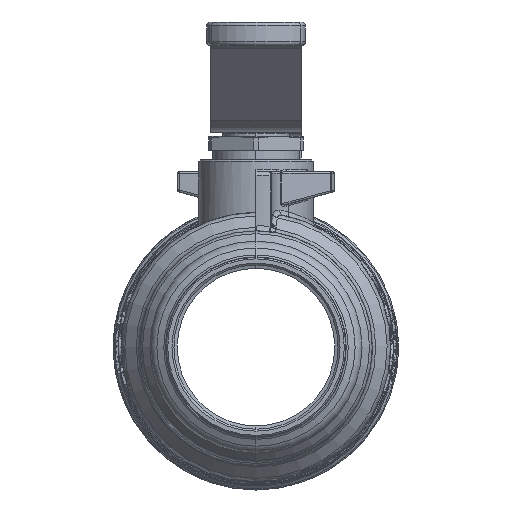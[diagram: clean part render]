
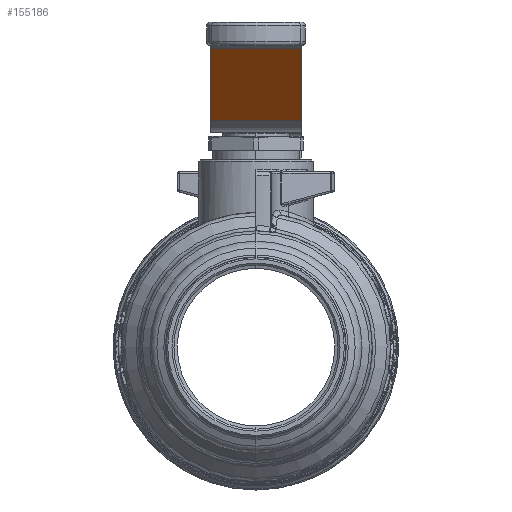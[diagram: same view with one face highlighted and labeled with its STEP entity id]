
A CAD part, left-side view. The second image highlights one B-rep face of the part: STEP entity #155186.
In plain terms, the highlighted planar face has unit normal (-0.707, 0, -0.707).
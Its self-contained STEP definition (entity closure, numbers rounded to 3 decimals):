
#153442 = PLANE('',#153443);
#153443 = AXIS2_PLACEMENT_3D('',#153444,#153445,#153446);
#153444 = CARTESIAN_POINT('',(0.,-11.4,35.6));
#153445 = DIRECTION('',(0.,-1.,0.));
#153446 = DIRECTION('',(1.,0.,0.));
#153641 = VERTEX_POINT('',#153642);
#153642 = CARTESIAN_POINT('',(-22.586,-11.4,34.529));
#153657 = CYLINDRICAL_SURFACE('',#153658,10.);
#153658 = AXIS2_PLACEMENT_3D('',#153659,#153660,#153661);
#153659 = CARTESIAN_POINT('',(-15.515,-11.4,41.6));
#153660 = DIRECTION('',(0.,-1.,0.));
#153661 = DIRECTION('',(1.,0.,0.));
#153669 = EDGE_CURVE('',#153670,#153641,#153672,.T.);
#153670 = VERTEX_POINT('',#153671);
#153671 = CARTESIAN_POINT('',(-40.899,-11.4,52.843));
#153672 = SURFACE_CURVE('',#153673,(#153677,#153684),.PCURVE_S1.);
#153673 = LINE('',#153674,#153675);
#153674 = CARTESIAN_POINT('',(-40.899,-11.4,52.843));
#153675 = VECTOR('',#153676,1.);
#153676 = DIRECTION('',(0.707,0.,-0.707));
#153677 = PCURVE('',#153442,#153678);
#153678 = DEFINITIONAL_REPRESENTATION('',(#153679),#153683);
#153679 = LINE('',#153680,#153681);
#153680 = CARTESIAN_POINT('',(-40.899,17.243));
#153681 = VECTOR('',#153682,1.);
#153682 = DIRECTION('',(0.707,-0.707));
#153683 = ( GEOMETRIC_REPRESENTATION_CONTEXT(2) 
PARAMETRIC_REPRESENTATION_CONTEXT() REPRESENTATION_CONTEXT('2D SPACE',''
  ) );
#153684 = PCURVE('',#153685,#153690);
#153685 = PLANE('',#153686);
#153686 = AXIS2_PLACEMENT_3D('',#153687,#153688,#153689);
#153687 = CARTESIAN_POINT('',(-40.899,-11.4,52.843));
#153688 = DIRECTION('',(-0.707,0.,
    -0.707));
#153689 = DIRECTION('',(0.707,0.,
    -0.707));
#153690 = DEFINITIONAL_REPRESENTATION('',(#153691),#153695);
#153691 = LINE('',#153692,#153693);
#153692 = CARTESIAN_POINT('',(0.,0.));
#153693 = VECTOR('',#153694,1.);
#153694 = DIRECTION('',(1.,0.));
#153695 = ( GEOMETRIC_REPRESENTATION_CONTEXT(2) 
PARAMETRIC_REPRESENTATION_CONTEXT() REPRESENTATION_CONTEXT('2D SPACE',''
  ) );
#153718 = CYLINDRICAL_SURFACE('',#153719,6.);
#153719 = AXIS2_PLACEMENT_3D('',#153720,#153721,#153722);
#153720 = CARTESIAN_POINT('',(-45.142,-11.4,48.6));
#153721 = DIRECTION('',(0.,-1.,0.));
#153722 = DIRECTION('',(1.,0.,0.));
#153883 = PLANE('',#153884);
#153884 = AXIS2_PLACEMENT_3D('',#153885,#153886,#153887);
#153885 = CARTESIAN_POINT('',(0.,-34.4,35.6));
#153886 = DIRECTION('',(0.,-1.,0.));
#153887 = DIRECTION('',(1.,0.,0.));
#154290 = VERTEX_POINT('',#154291);
#154291 = CARTESIAN_POINT('',(-40.899,-34.4,52.843));
#154317 = EDGE_CURVE('',#154290,#154318,#154320,.T.);
#154318 = VERTEX_POINT('',#154319);
#154319 = CARTESIAN_POINT('',(-22.586,-34.4,34.529));
#154320 = SURFACE_CURVE('',#154321,(#154325,#154332),.PCURVE_S1.);
#154321 = LINE('',#154322,#154323);
#154322 = CARTESIAN_POINT('',(-40.899,-34.4,52.843));
#154323 = VECTOR('',#154324,1.);
#154324 = DIRECTION('',(0.707,0.,-0.707));
#154325 = PCURVE('',#153883,#154326);
#154326 = DEFINITIONAL_REPRESENTATION('',(#154327),#154331);
#154327 = LINE('',#154328,#154329);
#154328 = CARTESIAN_POINT('',(-40.899,17.243));
#154329 = VECTOR('',#154330,1.);
#154330 = DIRECTION('',(0.707,-0.707));
#154331 = ( GEOMETRIC_REPRESENTATION_CONTEXT(2) 
PARAMETRIC_REPRESENTATION_CONTEXT() REPRESENTATION_CONTEXT('2D SPACE',''
  ) );
#154332 = PCURVE('',#153685,#154333);
#154333 = DEFINITIONAL_REPRESENTATION('',(#154334),#154338);
#154334 = LINE('',#154335,#154336);
#154335 = CARTESIAN_POINT('',(0.,23.));
#154336 = VECTOR('',#154337,1.);
#154337 = DIRECTION('',(1.,0.));
#154338 = ( GEOMETRIC_REPRESENTATION_CONTEXT(2) 
PARAMETRIC_REPRESENTATION_CONTEXT() REPRESENTATION_CONTEXT('2D SPACE',''
  ) );
#155165 = EDGE_CURVE('',#153641,#154318,#155166,.T.);
#155166 = SURFACE_CURVE('',#155167,(#155171,#155178),.PCURVE_S1.);
#155167 = LINE('',#155168,#155169);
#155168 = CARTESIAN_POINT('',(-22.586,-11.4,34.529));
#155169 = VECTOR('',#155170,1.);
#155170 = DIRECTION('',(0.,-1.,0.));
#155171 = PCURVE('',#153657,#155172);
#155172 = DEFINITIONAL_REPRESENTATION('',(#155173),#155177);
#155173 = LINE('',#155174,#155175);
#155174 = CARTESIAN_POINT('',(3.927,0.));
#155175 = VECTOR('',#155176,1.);
#155176 = DIRECTION('',(0.,1.));
#155177 = ( GEOMETRIC_REPRESENTATION_CONTEXT(2) 
PARAMETRIC_REPRESENTATION_CONTEXT() REPRESENTATION_CONTEXT('2D SPACE',''
  ) );
#155178 = PCURVE('',#153685,#155179);
#155179 = DEFINITIONAL_REPRESENTATION('',(#155180),#155184);
#155180 = LINE('',#155181,#155182);
#155181 = CARTESIAN_POINT('',(25.899,0.));
#155182 = VECTOR('',#155183,1.);
#155183 = DIRECTION('',(0.,1.));
#155184 = ( GEOMETRIC_REPRESENTATION_CONTEXT(2) 
PARAMETRIC_REPRESENTATION_CONTEXT() REPRESENTATION_CONTEXT('2D SPACE',''
  ) );
#155186 = ADVANCED_FACE('',(#155187),#153685,.T.);
#155187 = FACE_BOUND('',#155188,.T.);
#155188 = EDGE_LOOP('',(#155189,#155190,#155191,#155212));
#155189 = ORIENTED_EDGE('',*,*,#155165,.T.);
#155190 = ORIENTED_EDGE('',*,*,#154317,.F.);
#155191 = ORIENTED_EDGE('',*,*,#155192,.F.);
#155192 = EDGE_CURVE('',#153670,#154290,#155193,.T.);
#155193 = SURFACE_CURVE('',#155194,(#155198,#155205),.PCURVE_S1.);
#155194 = LINE('',#155195,#155196);
#155195 = CARTESIAN_POINT('',(-40.899,-11.4,52.843));
#155196 = VECTOR('',#155197,1.);
#155197 = DIRECTION('',(0.,-1.,0.));
#155198 = PCURVE('',#153685,#155199);
#155199 = DEFINITIONAL_REPRESENTATION('',(#155200),#155204);
#155200 = LINE('',#155201,#155202);
#155201 = CARTESIAN_POINT('',(0.,0.));
#155202 = VECTOR('',#155203,1.);
#155203 = DIRECTION('',(0.,1.));
#155204 = ( GEOMETRIC_REPRESENTATION_CONTEXT(2) 
PARAMETRIC_REPRESENTATION_CONTEXT() REPRESENTATION_CONTEXT('2D SPACE',''
  ) );
#155205 = PCURVE('',#153718,#155206);
#155206 = DEFINITIONAL_REPRESENTATION('',(#155207),#155211);
#155207 = LINE('',#155208,#155209);
#155208 = CARTESIAN_POINT('',(0.785,0.));
#155209 = VECTOR('',#155210,1.);
#155210 = DIRECTION('',(0.,1.));
#155211 = ( GEOMETRIC_REPRESENTATION_CONTEXT(2) 
PARAMETRIC_REPRESENTATION_CONTEXT() REPRESENTATION_CONTEXT('2D SPACE',''
  ) );
#155212 = ORIENTED_EDGE('',*,*,#153669,.T.);
